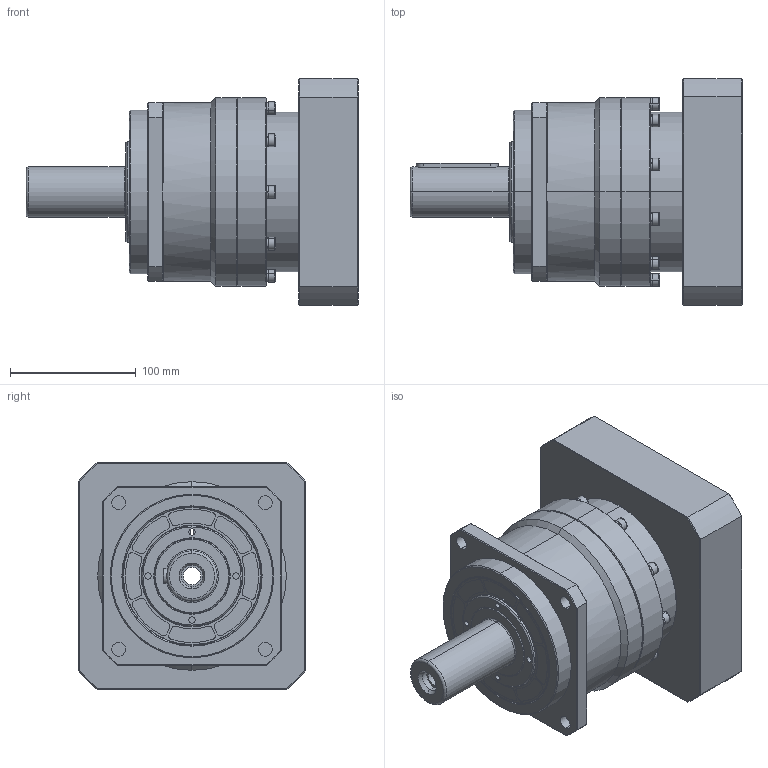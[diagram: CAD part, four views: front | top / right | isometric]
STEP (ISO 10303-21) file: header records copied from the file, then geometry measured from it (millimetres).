
FILE_DESCRIPTION (( 'STEP AP203' ), '1' );
FILE_NAME ('KS142-5-114.3-35-80-M12-200.STEP', '2020-08-12T01:43:33', ( '微软用户' ), ( '微软中国' ), 'SwSTEP 2.0', 'SolidWorks 2008', '' );
FILE_SCHEMA (( 'CONFIG_CONTROL_DESIGN' ));
Length unit declared in the file: millimetre
Products named in the file (1): KS142-5-114.3-35-80-M12-200
Bounding box: 264 x 180 x 180 mm (x, y, z)
Surface area: 252300.5 mm2 (no closed solid volume)
Topology: 0 solids, 39 shells, 508 faces, 1519 edges, 1021 vertices
Faces by surface type: cylinder 216, plane 181, cone 69, torus 42
Entity records: 17570 total; most frequent: CARTESIAN_POINT 3692, DIRECTION 3139, ORIENTED_EDGE 2530, EDGE_CURVE 1511, AXIS2_PLACEMENT_3D 1244, VERTEX_POINT 1021, CIRCLE 735, LINE 651
